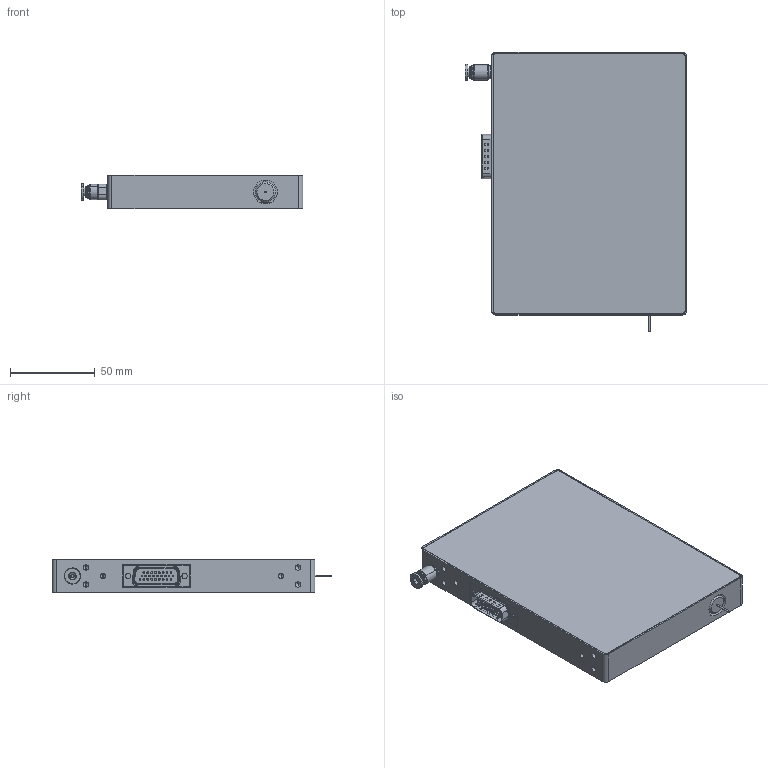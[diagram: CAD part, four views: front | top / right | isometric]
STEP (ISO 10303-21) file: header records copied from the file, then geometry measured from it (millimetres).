
FILE_DESCRIPTION (( 'STEP AP203' ), '1' );
FILE_NAME ('ZRADS-6-20-S40-EC.STEP', '2023-11-23T13:11:51', ( '' ), ( '' ), 'SwSTEP 2.0', 'SolidWorks 2019', '' );
FILE_SCHEMA (( 'CONFIG_CONTROL_DESIGN' ));
Length unit declared in the file: millimetre
Products named in the file (9): ZRADS-6-20-S40-001-168; 諦誧柲郲; ZRADS-6-20-S20-粣-168; ZRADS-6-20-S40-EC; POC4M5-S-168; MS-5AU-4-168; ZRADS-6-20-S30-N-PCB1-168; 裔啣; UDB26-PCB-168
Assembly tree (8 placements, depth 3):
  ZRADS-6-20-S40-EC
    ZRADS-6-20-S20-粣-168
    諦誧柲郲
    ZRADS-6-20-S40-001-168
    MS-5AU-4-168
    ZRADS-6-20-S30-N-PCB1-168
      UDB26-PCB-168
    POC4M5-S-168
    裔啣
Bounding box: 130.6 x 165 x 20 mm (x, y, z)
Volume: 357135.4 mm3; surface area: 89820.2 mm2
Topology: 7 solids, 7 shells, 1039 faces, 2421 edges, 1402 vertices
Faces by surface type: cylinder 496, bspline 278, plane 200, cone 65
Entity records: 35134 total; most frequent: CARTESIAN_POINT 11896, DIRECTION 4754, ORIENTED_EDGE 4652, EDGE_CURVE 2326, AXIS2_PLACEMENT_3D 1928, VERTEX_POINT 1402, EDGE_LOOP 1158, CIRCLE 1155
